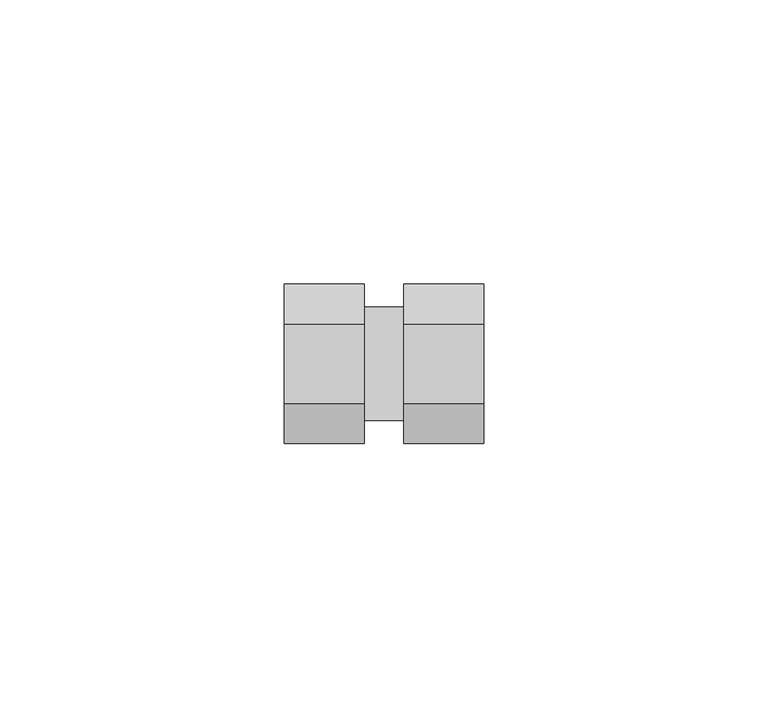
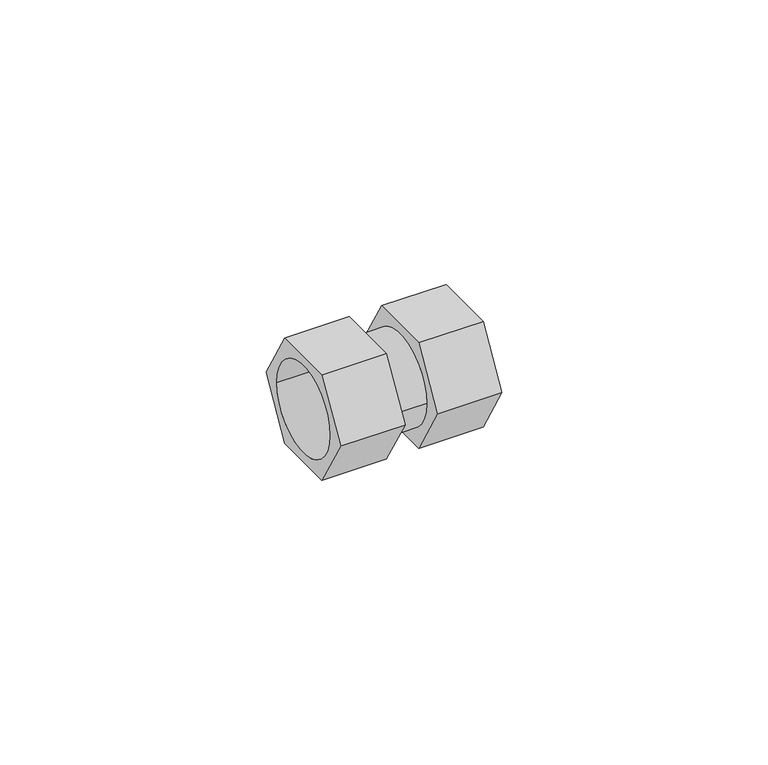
"""IFC4 building model written with IfcOpenShell, lengths in millimetres: pipe fitting geometry, БИР ПЕКС_КМП_Соединитель_Резьба_Внутренняя : Соединитель прямой с внутренней резьбой_КМП."""

from ifc_helpers import new_model, si_unit, point, frame, origin, origin_2d, place, context, project, spatial, polyline, circle_curve, trimmed, segment, composite_curve, outline, extrude, source, transform, mapped, element, save


def pipe_fitting_2d6e3a8b(model_context):
    return source(origin(), model_context, "Body", "SweptSolid", [
        extrude(outline(polyline([(-7.0, -12.1243557), (-14.0, 0.0), (-7.0, 12.1243557), (7.0, 12.1243557), (14.0, 0.0), (7.0, -12.1243557), (-7.0, -12.1243557)]), holes=[composite_curve([segment(trimmed(circle_curve(origin_2d(), 10.0), [point((-10.0, 0.0))], [point((10.0, 0.0))], True, "CARTESIAN"), True, "CONTINUOUS"), segment(trimmed(circle_curve(origin_2d(), 10.0), [point((10.0, 0.0))], [point((-10.0, 0.0))], True, "CARTESIAN"), True, "CONTINUOUS")], self_intersect=False)]), frame((-21.0, 0.0, 0.0), z_axis=(1.0, 0.0, 0.0), x_axis=(0.0, 1.0, 0.0)), (0.0, 0.0, 1.0), 14.0),
        extrude(outline(polyline([(-7.0, -12.1243557), (-14.0, 0.0), (-7.0, 12.1243557), (7.0, 12.1243557), (14.0, 0.0), (7.0, -12.1243557), (-7.0, -12.1243557)]), holes=[composite_curve([segment(trimmed(circle_curve(origin_2d(), 10.0), [point((-10.0, 0.0))], [point((10.0, 0.0))], True, "CARTESIAN"), True, "CONTINUOUS"), segment(trimmed(circle_curve(origin_2d(), 10.0), [point((10.0, 0.0))], [point((-10.0, 0.0))], True, "CARTESIAN"), True, "CONTINUOUS")], self_intersect=False)]), frame((0.0, 0.0, 0.0), z_axis=(1.0, 0.0, 0.0), x_axis=(0.0, 1.0, 0.0)), (0.0, 0.0, 1.0), 14.0),
        extrude(outline(composite_curve([segment(trimmed(circle_curve(origin_2d(), 10.0), [point((-10.0, 0.0))], [point((10.0, 0.0))], False, "CARTESIAN"), True, "CONTINUOUS"), segment(trimmed(circle_curve(origin_2d(), 10.0), [point((10.0, 0.0))], [point((-10.0, 0.0))], False, "CARTESIAN"), True, "CONTINUOUS")], self_intersect=False)), frame((-7.0, 0.0, 0.0), z_axis=(1.0, 0.0, 0.0), x_axis=(0.0, 1.0, 0.0)), (0.0, 0.0, 1.0), 7.0),
    ])


if __name__ == "__main__":
    model = new_model("IFC4")
    model_context = context("Model", 3, world=origin())
    ifc_project = project(units=[si_unit("LENGTHUNIT", "METRE", prefix="MILLI")], contexts=[model_context])
    site = spatial("IfcSite", under=ifc_project)
    building = spatial("IfcBuilding", under=site)
    placement = place(None, origin())
    pipe_fitting_shape = pipe_fitting_2d6e3a8b(model_context)
    element("IfcPipeFitting", 1, ObjectType="БИР ПЕКС_КМП_Соединитель_Резьба_Внутренняя : Соединитель прямой с внутренней резьбой_КМП", at=placement, inside=building, context=model_context, shape_type="MappedRepresentation", body=[
        mapped(pipe_fitting_shape, transform((0.0, 0.0, 0.0), x_axis=(1.0, 0.0, 0.0), y_axis=(0.0, 1.0, 0.0), z_axis=(0.0, 0.0, 1.0))),
    ])
    save(model, "model.ifc")
